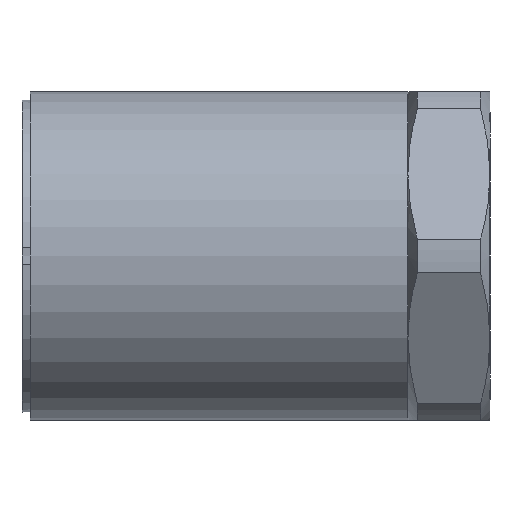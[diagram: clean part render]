
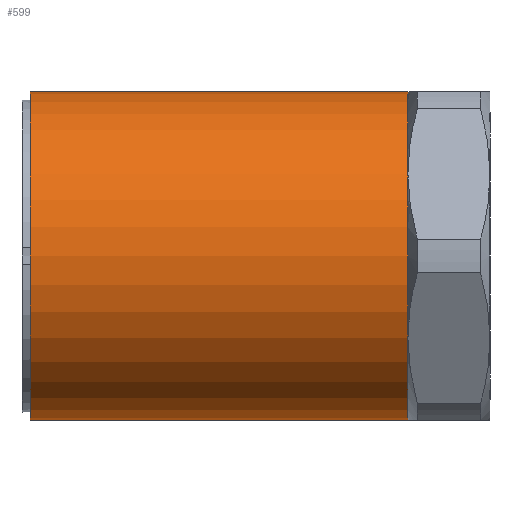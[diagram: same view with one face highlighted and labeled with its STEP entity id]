
A CAD part, front view. The second image highlights one B-rep face of the part: STEP entity #599.
In plain terms, the highlighted cylindrical face has radius 10 mm (diameter 20 mm), a partial arc.
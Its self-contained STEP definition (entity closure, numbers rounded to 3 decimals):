
#48 = CARTESIAN_POINT ( 'NONE',  ( 0., 0., 10. ) ) ;
#50 = CARTESIAN_POINT ( 'NONE',  ( 23., 0., 10. ) ) ;
#52 = CARTESIAN_POINT ( 'NONE',  ( 23., -8.66, 5. ) ) ;
#53 = CARTESIAN_POINT ( 'NONE',  ( 23., -8.66, -5. ) ) ;
#60 = CARTESIAN_POINT ( 'NONE',  ( 0., 0., -10. ) ) ;
#61 = CARTESIAN_POINT ( 'NONE',  ( 23., 0., -10. ) ) ;
#110 = VERTEX_POINT ( 'NONE', #61 ) ;
#111 = VERTEX_POINT ( 'NONE', #60 ) ;
#118 = VERTEX_POINT ( 'NONE', #53 ) ;
#119 = VERTEX_POINT ( 'NONE', #52 ) ;
#121 = VERTEX_POINT ( 'NONE', #50 ) ;
#123 = VERTEX_POINT ( 'NONE', #48 ) ;
#327 = FACE_OUTER_BOUND ( 'NONE', #1506, .T. ) ;
#334 = CYLINDRICAL_SURFACE ( 'NONE', #1317, 10. ) ;
#387 = VECTOR ( 'NONE', #826, 1000. ) ;
#398 = LINE ( 'NONE', #819, #387 ) ;
#511 = CIRCLE ( 'NONE', #1383, 10. ) ;
#512 = CIRCLE ( 'NONE', #1381, 10. ) ;
#515 = LINE ( 'NONE', #1146, #516 ) ;
#516 = VECTOR ( 'NONE', #1147, 1000. ) ;
#520 = CIRCLE ( 'NONE', #1384, 10. ) ;
#522 = CIRCLE ( 'NONE', #1385, 10. ) ;
#599 = ADVANCED_FACE ( 'NONE', ( #327 ), #334, .T. ) ;
#635 = EDGE_CURVE ( 'NONE', #110, #111, #398, .T. ) ;
#711 = CARTESIAN_POINT ( 'NONE',  ( 0., 0., 0. ) ) ;
#713 = DIRECTION ( 'NONE',  ( 0., 0., 1. ) ) ;
#714 = DIRECTION ( 'NONE',  ( -1., 0., 0. ) ) ;
#819 = CARTESIAN_POINT ( 'NONE',  ( 0., 0., -10. ) ) ;
#826 = DIRECTION ( 'NONE',  ( -1., 0., 0. ) ) ;
#1127 = CARTESIAN_POINT ( 'NONE',  ( 23., 0., 0. ) ) ;
#1135 = CARTESIAN_POINT ( 'NONE',  ( 23., 0., 0. ) ) ;
#1136 = DIRECTION ( 'NONE',  ( -1., 0., 0. ) ) ;
#1137 = DIRECTION ( 'NONE',  ( 0., 0., 1. ) ) ;
#1138 = CARTESIAN_POINT ( 'NONE',  ( 0., 0., 0. ) ) ;
#1139 = CARTESIAN_POINT ( 'NONE',  ( 23., 0., 0. ) ) ;
#1140 = DIRECTION ( 'NONE',  ( -1., 0., 0. ) ) ;
#1141 = DIRECTION ( 'NONE',  ( 0., 0., 1. ) ) ;
#1146 = CARTESIAN_POINT ( 'NONE',  ( 0., 0., 10. ) ) ;
#1147 = DIRECTION ( 'NONE',  ( -1., 0., 0. ) ) ;
#1151 = DIRECTION ( 'NONE',  ( -1., 0., 0. ) ) ;
#1152 = DIRECTION ( 'NONE',  ( 0., 0., 1. ) ) ;
#1153 = DIRECTION ( 'NONE',  ( -1., 0., 0. ) ) ;
#1154 = DIRECTION ( 'NONE',  ( 0., 0., 1. ) ) ;
#1278 = EDGE_CURVE ( 'NONE', #119, #121, #511, .T. ) ;
#1279 = EDGE_CURVE ( 'NONE', #111, #123, #512, .T. ) ;
#1282 = EDGE_CURVE ( 'NONE', #121, #123, #515, .T. ) ;
#1284 = EDGE_CURVE ( 'NONE', #110, #118, #520, .T. ) ;
#1285 = EDGE_CURVE ( 'NONE', #118, #119, #522, .T. ) ;
#1317 = AXIS2_PLACEMENT_3D ( 'NONE', #711, #714, #713 ) ;
#1381 = AXIS2_PLACEMENT_3D ( 'NONE', #1138, #1140, #1141 ) ;
#1383 = AXIS2_PLACEMENT_3D ( 'NONE', #1127, #1136, #1137 ) ;
#1384 = AXIS2_PLACEMENT_3D ( 'NONE', #1135, #1151, #1152 ) ;
#1385 = AXIS2_PLACEMENT_3D ( 'NONE', #1139, #1153, #1154 ) ;
#1458 = ORIENTED_EDGE ( 'NONE', *, *, #1278, .T. ) ;
#1460 = ORIENTED_EDGE ( 'NONE', *, *, #1282, .T. ) ;
#1461 = ORIENTED_EDGE ( 'NONE', *, *, #1279, .F. ) ;
#1465 = ORIENTED_EDGE ( 'NONE', *, *, #635, .F. ) ;
#1466 = ORIENTED_EDGE ( 'NONE', *, *, #1284, .T. ) ;
#1467 = ORIENTED_EDGE ( 'NONE', *, *, #1285, .T. ) ;
#1506 = EDGE_LOOP ( 'NONE', ( #1465, #1466, #1467, #1458, #1460, #1461 ) ) ;
